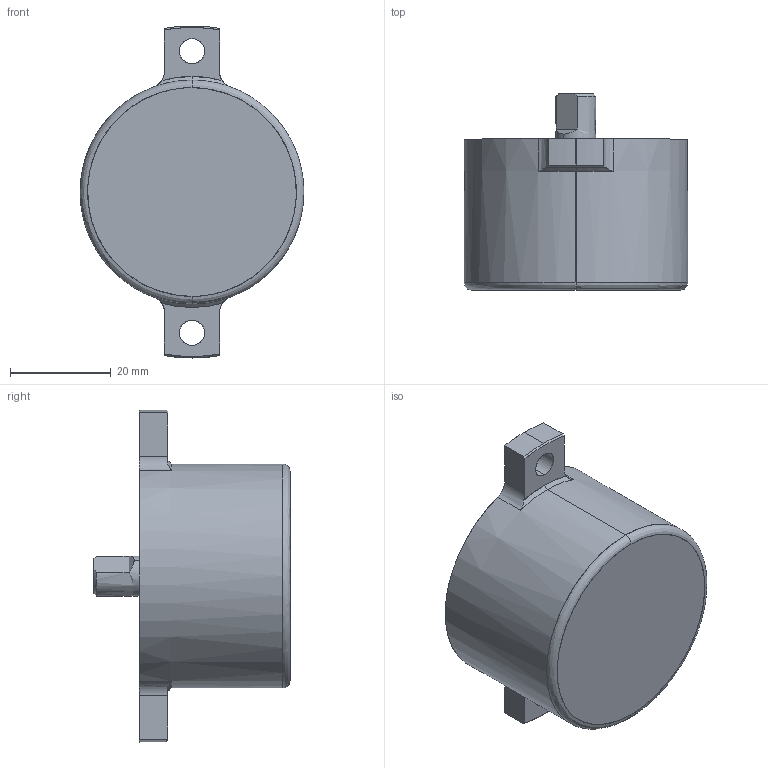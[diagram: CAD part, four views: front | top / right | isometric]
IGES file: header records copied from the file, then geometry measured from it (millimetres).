
Start section: SolidWorks IGES file using analytic representation for surfaces
Global section: file name: C:\3D-DATA\型式\R\【提出用】\IGS\FYN-D2-R.IGS; native system: SolidWorks 2014; preprocessor: SolidWorks 2014; author: flgijutsu; date: 140516.194755; units: millimetre
Bounding box: 44.5 x 39 x 66 mm (x, y, z)
Surface area: 8228.8 mm2 (no closed solid volume)
Topology: 0 solids, 0 shells, 40 faces, 805 edges, 805 vertices
Faces by surface type: revolution 23, bspline 17
